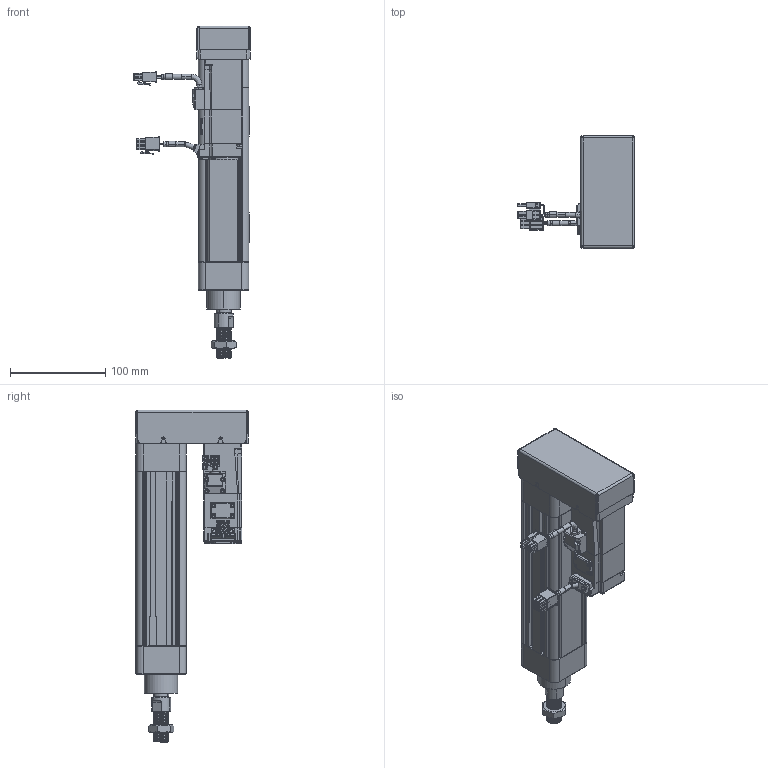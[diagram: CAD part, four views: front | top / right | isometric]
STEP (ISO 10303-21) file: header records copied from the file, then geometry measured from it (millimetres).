
FILE_DESCRIPTION (( 'STEP AP203' ), '1' );
FILE_NAME ('VEC50-10-C-100-MF-ZP10B-MS2.STEP', '2019-01-26T02:49:25', ( 'vobosh 6' ), ( 'Microsoft' ), 'SwSTEP 2.0', 'SolidWorks 2016', '' );
FILE_SCHEMA (( 'CONFIG_CONTROL_DESIGN' ));
Length unit declared in the file: millimetre
Products named in the file (12): 柈ч肣薦え耳9x耳8.5x4.4; VEC50-MF-200-011-X1; CS1-M; 鞠褒蹟譫M16x1.5; VEC50-MF-200-004-X1; VEC50-MF-200-001-X1; MHMF012L1V2; VEC50-MF-200-002-X1; VEC50-MF-200-005-X1; VEC50-MF-200-003-X1; VEC50-10-C-100-MF-ZP10B-MS2; 带尾螺母M6x9x45（镀镍）
Assembly tree (20 placements, depth 2):
  VEC50-10-C-100-MF-ZP10B-MS2
    VEC50-MF-200-001-X1
    VEC50-MF-200-002-X1
    VEC50-MF-200-003-X1
    带尾螺母M6x9x45（镀镍）  x8
    柈ч肣薦え耳9x耳8.5x4.4  x2
    VEC50-MF-200-011-X1
    CS1-M  x2
    鞠褒蹟譫M16x1.5
    VEC50-MF-200-004-X1
    MHMF012L1V2
    VEC50-MF-200-005-X1
Bounding box: 122.5 x 118 x 349 mm (x, y, z)
Volume: 638023.5 mm3; surface area: 231789 mm2
Topology: 27 solids, 27 shells, 1970 faces, 4861 edges, 3048 vertices
Faces by surface type: plane 902, cylinder 703, cone 239, bspline 117, torus 9
Entity records: 59744 total; most frequent: CARTESIAN_POINT 16772, DIRECTION 8631, ORIENTED_EDGE 8630, EDGE_CURVE 4315, AXIS2_PLACEMENT_3D 2988, VERTEX_POINT 2755, LINE 2655, VECTOR 2655
